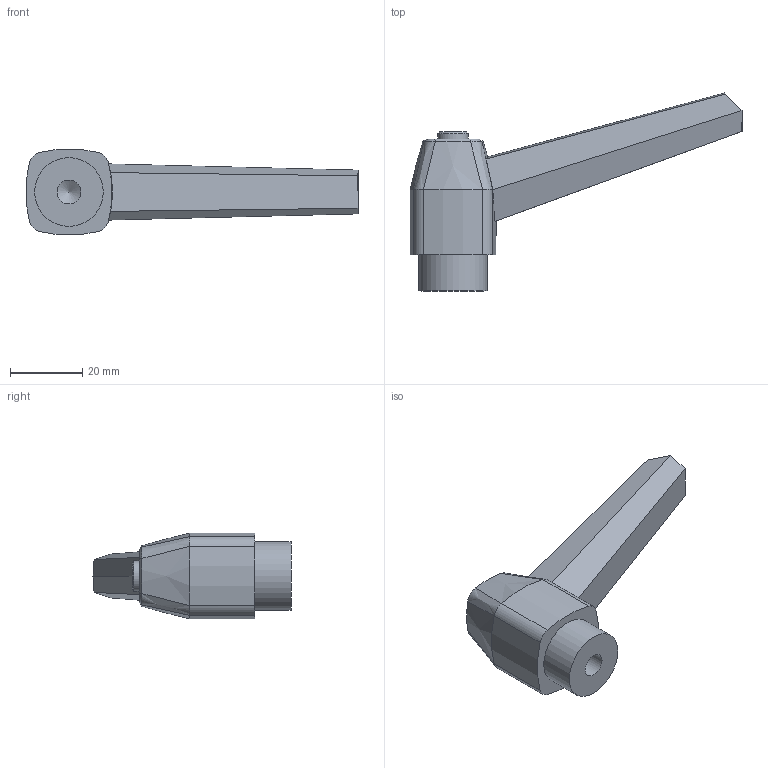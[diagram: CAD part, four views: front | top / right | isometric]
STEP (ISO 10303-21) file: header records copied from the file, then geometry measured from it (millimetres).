
FILE_DESCRIPTION (( 'STEP AP214' ), '1' );
FILE_NAME ('500-80-M8-SW.step', '2022-04-13T07:18:39', ( '' ), ( '' ), 'SwSTEP 2.0', 'SolidWorks 2019', '' );
FILE_SCHEMA (( 'AUTOMOTIVE_DESIGN' ));
Length unit declared in the file: millimetre
Products named in the file (1): 500-80-M8-SW
Bounding box: 91.88 x 54.8 x 23.76 mm (x, y, z)
Volume: 28839.5 mm3; surface area: 7801.4 mm2
Topology: 1 solids, 1 shells, 51 faces, 123 edges, 78 vertices
Faces by surface type: plane 21, cylinder 12, cone 10, bspline 8
Full cylindrical faces by diameter (mm): 6.6 x1, 8.5 x1, 10 x1, 19 x1
Entity records: 1912 total; most frequent: CARTESIAN_POINT 817, ORIENTED_EDGE 232, DIRECTION 182, EDGE_CURVE 116, VERTEX_POINT 77, AXIS2_PLACEMENT_3D 74, EDGE_LOOP 61, FACE_OUTER_BOUND 55
